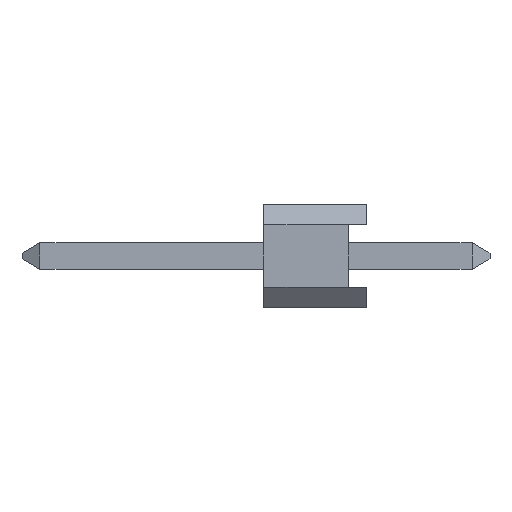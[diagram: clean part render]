
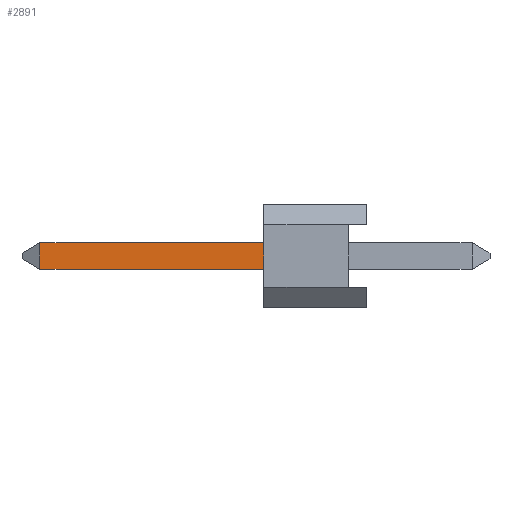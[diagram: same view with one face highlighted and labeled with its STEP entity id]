
A CAD part, left-side view. The second image highlights one B-rep face of the part: STEP entity #2891.
In plain terms, the highlighted planar face has unit normal (-1, 0, 0).
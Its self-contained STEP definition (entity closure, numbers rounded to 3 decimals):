
#181=DIRECTION('',(0.,-1.,0.));
#182=VECTOR('',#181,5.407);
#183=CARTESIAN_POINT('',(-6.67,5.407,-0.32));
#184=LINE('',#183,#182);
#233=DIRECTION('',(0.,0.,1.));
#234=VECTOR('',#233,0.64);
#235=CARTESIAN_POINT('',(-6.67,0.,-0.32));
#236=LINE('',#235,#234);
#485=DIRECTION('',(0.,0.,-1.));
#486=VECTOR('',#485,0.64);
#487=CARTESIAN_POINT('',(-6.67,5.407,0.32));
#488=LINE('',#487,#486);
#505=DIRECTION('',(0.,-1.,0.));
#506=VECTOR('',#505,5.407);
#507=CARTESIAN_POINT('',(-6.67,5.407,0.32));
#508=LINE('',#507,#506);
#1889=CARTESIAN_POINT('',(-6.67,0.,-0.32));
#1891=VERTEX_POINT('',#1889);
#1893=CARTESIAN_POINT('',(-6.67,0.,0.32));
#1895=VERTEX_POINT('',#1893);
#2185=CARTESIAN_POINT('',(-6.67,5.407,-0.32));
#2187=VERTEX_POINT('',#2185);
#2193=CARTESIAN_POINT('',(-6.67,5.407,0.32));
#2194=VERTEX_POINT('',#2193);
#2878=CARTESIAN_POINT('',(-6.67,5.84,-0.32));
#2879=DIRECTION('',(-1.,0.,0.));
#2880=DIRECTION('',(0.,-1.,0.));
#2881=AXIS2_PLACEMENT_3D('',#2878,#2879,#2880);
#2882=PLANE('',#2881);
#2884=ORIENTED_EDGE('',*,*,#2883,.F.);
#2886=ORIENTED_EDGE('',*,*,#2885,.T.);
#2887=ORIENTED_EDGE('',*,*,#2700,.F.);
#2888=ORIENTED_EDGE('',*,*,#2595,.F.);
#2889=EDGE_LOOP('',(#2884,#2886,#2887,#2888));
#2890=FACE_OUTER_BOUND('',#2889,.F.);
#2891=ADVANCED_FACE('',(#2890),#2882,.T.);
#2595=EDGE_CURVE('',#2187,#1891,#184,.T.);
#2700=EDGE_CURVE('',#1891,#1895,#236,.T.);
#2883=EDGE_CURVE('',#2194,#2187,#488,.T.);
#2885=EDGE_CURVE('',#2194,#1895,#508,.T.);
